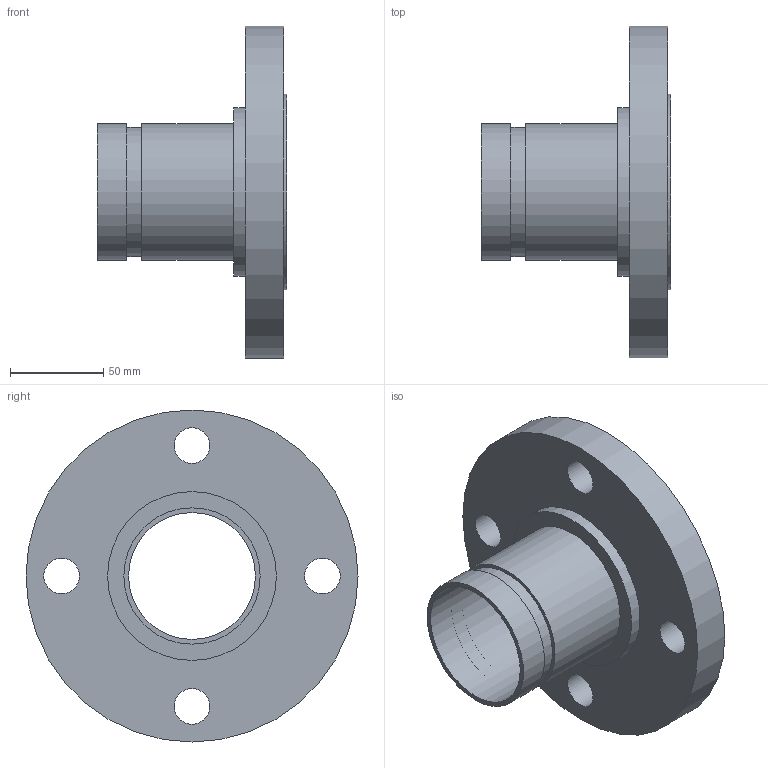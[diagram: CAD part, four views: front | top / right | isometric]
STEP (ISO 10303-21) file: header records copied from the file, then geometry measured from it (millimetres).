
FILE_DESCRIPTION(/* description */ ('VIC No 445R FLANGE ADAPTER NIPPE (ANSI)','CAx-IF Rec.Pracs.---Representation and Presentation of Product Manufacturing Information (PMI)---4.0---2014-10-13'),/* implementation_level */ '2;1');
FILE_NAME(/* name */ 'C:\Users\kkamble\AppData\Roaming\Autodesk\ApplicationPlugins\Back Up\Victaulic_SS-OGS_Flanged Adapter Nipple_CL 150 RF_Style 445R (OGSxFLG)\Victaulic_SS-OGS_Flanged Adapter Nipple_CL 150 RF_Style 445R (OGSxFLG)_2.5 (65).stp',/* time_stamp */ '2020-08-27T09:30:59+05:00',/* author */ ('jbrannon'),/* organization */ ('Victaulic'),/* preprocessor_version */ 'ST-DEVELOPER v17.2',/* originating_system */ 'Autodesk Inventor 2019',/* authorisation */ '');
FILE_SCHEMA (('AP242_MANAGED_MODEL_BASED_3D_ENGINEERING_MIM_LF { 1 0 10303 442 1 1 4 }'));
Length unit declared in the file: inch
Products named in the file (1): 445R-02.5
Bounding box: 101.6 x 177.8 x 177.8 mm (x, y, z)
Volume: 476038.9 mm3; surface area: 98103.8 mm2
Topology: 1 solids, 1 shells, 18 faces, 47 edges, 36 vertices
Faces by surface type: cylinder 11, plane 7
Full cylindrical faces by diameter (mm): 19.05 x4, 67.945 x1, 69.088 x1, 73.025 x2, 90.424 x1, 104.648 x1, 177.8 x1
Entity records: 769 total; most frequent: DIRECTION 147, CARTESIAN_POINT 119, ORIENTED_EDGE 94, AXIS2_PLACEMENT_3D 68, EDGE_CURVE 47, CIRCLE 36, VERTEX_POINT 36, EDGE_LOOP 33
